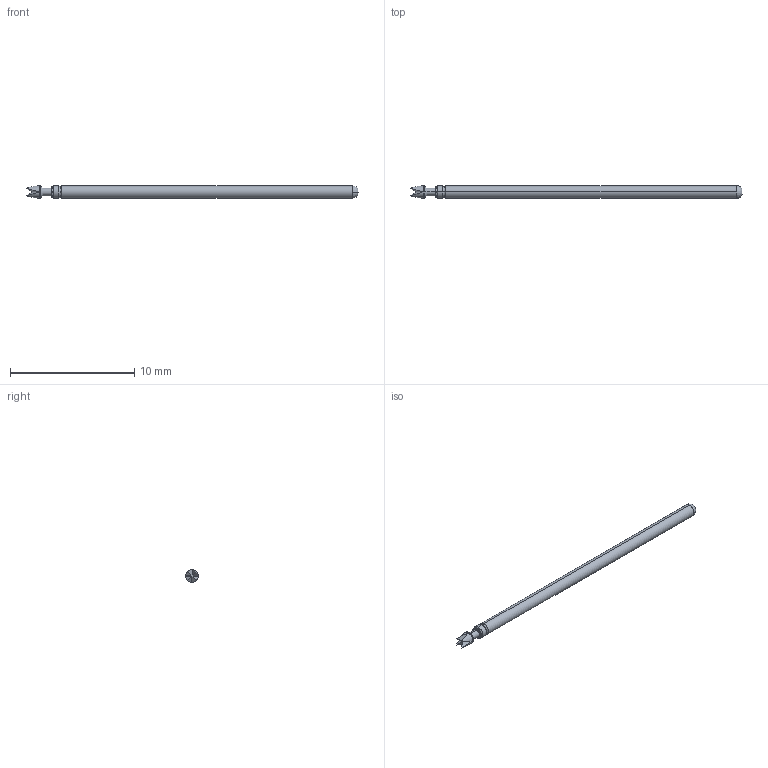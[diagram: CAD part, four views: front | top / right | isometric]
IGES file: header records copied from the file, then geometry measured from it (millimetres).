
Start section: SolidWorks IGES file using analytic representation for surfaces
Global section: file name: Z:\probe solid model mockups\Solidworks models\Parts\LFRE-1L FULL.IGS; native system: SolidWorks 2016; preprocessor: SolidWorks 2016; author: mlee; date: 180927.163538; units: inch
Bounding box: 26.67 x 1.02 x 1.02 mm (x, y, z)
Surface area: 85.3 mm2 (no closed solid volume)
Topology: 0 solids, 0 shells, 32 faces, 186 edges, 186 vertices
Faces by surface type: revolution 18, bspline 14
